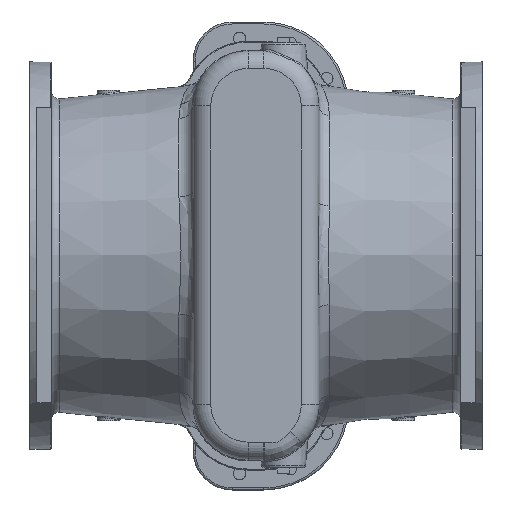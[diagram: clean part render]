
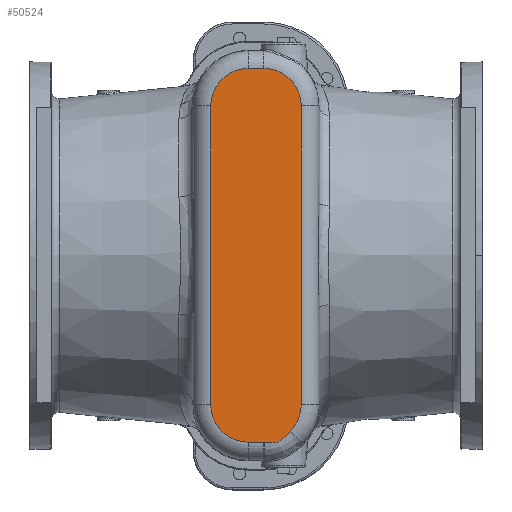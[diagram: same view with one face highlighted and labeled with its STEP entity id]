
A CAD part, top view. The second image highlights one B-rep face of the part: STEP entity #50524.
In plain terms, the highlighted planar face has unit normal (0, 0, 1).
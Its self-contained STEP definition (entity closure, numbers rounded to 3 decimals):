
#2023=B_SPLINE_CURVE_WITH_KNOTS('',3,(#98259,#98260,#98261,#98262,#98263,
#98264,#98265,#98266,#98267,#98268,#98269,#98270,#98271,#98272,#98273,#98274,
#98275),.UNSPECIFIED.,.F.,.F.,(4,1,1,1,1,1,1,1,1,1,1,1,1,1,4),(0.,
1.096,2.191,2.739,3.287,3.652,
4.017,4.382,4.747,5.112,5.478,
6.208,6.573,7.121,7.669),
 .UNSPECIFIED.);
#3801=PLANE('',#55277);
#6148=FACE_OUTER_BOUND('',#9539,.T.);
#9539=EDGE_LOOP('',(#43460,#43461,#43462,#43463,#43464,#43465,#43466,#43467,
#43468,#43469));
#12528=CIRCLE('',#55278,95.);
#12529=CIRCLE('',#55279,95.);
#12530=CIRCLE('',#55280,95.);
#12531=CIRCLE('',#55281,95.);
#12532=CIRCLE('',#55282,95.);
#16008=LINE('',#98251,#19568);
#16009=LINE('',#98255,#19569);
#16010=LINE('',#98279,#19570);
#16011=LINE('',#98283,#19571);
#19568=VECTOR('',#67196,10.);
#19569=VECTOR('',#67199,10.);
#19570=VECTOR('',#67204,10.);
#19571=VECTOR('',#67207,10.);
#24041=VERTEX_POINT('',#98249);
#24042=VERTEX_POINT('',#98250);
#24043=VERTEX_POINT('',#98252);
#24044=VERTEX_POINT('',#98254);
#24045=VERTEX_POINT('',#98256);
#24046=VERTEX_POINT('',#98258);
#24047=VERTEX_POINT('',#98276);
#24048=VERTEX_POINT('',#98278);
#24049=VERTEX_POINT('',#98280);
#24050=VERTEX_POINT('',#98282);
#30727=EDGE_CURVE('',#24041,#24042,#16008,.T.);
#30728=EDGE_CURVE('',#24043,#24041,#12528,.T.);
#30729=EDGE_CURVE('',#24044,#24043,#16009,.T.);
#30730=EDGE_CURVE('',#24045,#24044,#12529,.T.);
#30731=EDGE_CURVE('',#24046,#24045,#2023,.T.);
#30732=EDGE_CURVE('',#24047,#24046,#12530,.T.);
#30733=EDGE_CURVE('',#24048,#24047,#16010,.T.);
#30734=EDGE_CURVE('',#24049,#24048,#12531,.T.);
#30735=EDGE_CURVE('',#24050,#24049,#16011,.T.);
#30736=EDGE_CURVE('',#24042,#24050,#12532,.T.);
#43460=ORIENTED_EDGE('',*,*,#30727,.F.);
#43461=ORIENTED_EDGE('',*,*,#30728,.F.);
#43462=ORIENTED_EDGE('',*,*,#30729,.F.);
#43463=ORIENTED_EDGE('',*,*,#30730,.F.);
#43464=ORIENTED_EDGE('',*,*,#30731,.F.);
#43465=ORIENTED_EDGE('',*,*,#30732,.F.);
#43466=ORIENTED_EDGE('',*,*,#30733,.F.);
#43467=ORIENTED_EDGE('',*,*,#30734,.F.);
#43468=ORIENTED_EDGE('',*,*,#30735,.F.);
#43469=ORIENTED_EDGE('',*,*,#30736,.F.);
#50524=ADVANCED_FACE('',(#6148),#3801,.T.);
#55277=AXIS2_PLACEMENT_3D('',#98248,#67194,#67195);
#55278=AXIS2_PLACEMENT_3D('',#98253,#67197,#67198);
#55279=AXIS2_PLACEMENT_3D('',#98257,#67200,#67201);
#55280=AXIS2_PLACEMENT_3D('',#98277,#67202,#67203);
#55281=AXIS2_PLACEMENT_3D('',#98281,#67205,#67206);
#55282=AXIS2_PLACEMENT_3D('',#98284,#67208,#67209);
#67194=DIRECTION('center_axis',(0.,0.,
1.));
#67195=DIRECTION('ref_axis',(1.,0.,0.));
#67196=DIRECTION('',(0.,1.,0.));
#67197=DIRECTION('center_axis',(0.,0.,
-1.));
#67198=DIRECTION('ref_axis',(-0.707,-0.707,0.));
#67199=DIRECTION('',(-1.,0.,0.));
#67200=DIRECTION('center_axis',(0.,0.,
-1.));
#67201=DIRECTION('ref_axis',(0.707,-0.707,0.));
#67202=DIRECTION('center_axis',(0.,0.,
-1.));
#67203=DIRECTION('ref_axis',(0.707,-0.707,0.));
#67204=DIRECTION('',(0.,-1.,0.));
#67205=DIRECTION('center_axis',(0.,0.,
-1.));
#67206=DIRECTION('ref_axis',(0.707,0.707,0.));
#67207=DIRECTION('',(1.,0.,0.));
#67208=DIRECTION('center_axis',(0.,0.,
-1.));
#67209=DIRECTION('ref_axis',(-0.707,0.707,0.));
#98248=CARTESIAN_POINT('Origin',(-37.5,0.,
1040.));
#98249=CARTESIAN_POINT('',(-152.5,-380.,1040.));
#98250=CARTESIAN_POINT('',(-152.5,380.,1040.));
#98251=CARTESIAN_POINT('',(-152.5,-190.,1040.));
#98252=CARTESIAN_POINT('',(-57.5,-475.,1040.));
#98253=CARTESIAN_POINT('Origin',(-57.5,-380.,1040.));
#98254=CARTESIAN_POINT('',(-17.5,-475.,1040.));
#98255=CARTESIAN_POINT('',(-27.5,-475.,1040.));
#98256=CARTESIAN_POINT('',(-16.178,-474.991,1040.));
#98257=CARTESIAN_POINT('Origin',(-17.5,-380.,1040.));
#98258=CARTESIAN_POINT('',(49.787,-447.063,1040.));
#98259=CARTESIAN_POINT('Ctrl Pts',(49.787,-447.063,1040.));
#98260=CARTESIAN_POINT('Ctrl Pts',(47.209,-449.65,1040.));
#98261=CARTESIAN_POINT('Ctrl Pts',(42.21,-454.979,1040.));
#98262=CARTESIAN_POINT('Ctrl Pts',(35.967,-461.639,1040.));
#98263=CARTESIAN_POINT('Ctrl Pts',(30.645,-466.651,1040.));
#98264=CARTESIAN_POINT('Ctrl Pts',(26.858,-469.72,1040.));
#98265=CARTESIAN_POINT('Ctrl Pts',(23.296,-472.07,1040.));
#98266=CARTESIAN_POINT('Ctrl Pts',(20.048,-473.759,1040.));
#98267=CARTESIAN_POINT('Ctrl Pts',(16.603,-475.021,1040.));
#98268=CARTESIAN_POINT('Ctrl Pts',(13.022,-475.786,1040.));
#98269=CARTESIAN_POINT('Ctrl Pts',(9.354,-476.103,1040.));
#98270=CARTESIAN_POINT('Ctrl Pts',(4.489,-476.091,1040.));
#98271=CARTESIAN_POINT('Ctrl Pts',(-0.367,-475.727,
1040.));
#98272=CARTESIAN_POINT('Ctrl Pts',(-5.836,-475.313,
1040.));
#98273=CARTESIAN_POINT('Ctrl Pts',(-10.699,-475.023,
1040.));
#98274=CARTESIAN_POINT('Ctrl Pts',(-14.352,-474.965,1040.));
#98275=CARTESIAN_POINT('Ctrl Pts',(-16.178,-474.991,1040.));
#98276=CARTESIAN_POINT('',(77.5,-380.,1040.));
#98277=CARTESIAN_POINT('Origin',(-17.5,-380.,1040.));
#98278=CARTESIAN_POINT('',(77.5,380.,1040.));
#98279=CARTESIAN_POINT('',(77.5,190.,1040.));
#98280=CARTESIAN_POINT('',(-17.5,475.,1040.));
#98281=CARTESIAN_POINT('Origin',(-17.5,380.,1040.));
#98282=CARTESIAN_POINT('',(-57.5,475.,1040.));
#98283=CARTESIAN_POINT('',(-47.5,475.,1040.));
#98284=CARTESIAN_POINT('Origin',(-57.5,380.,1040.));
